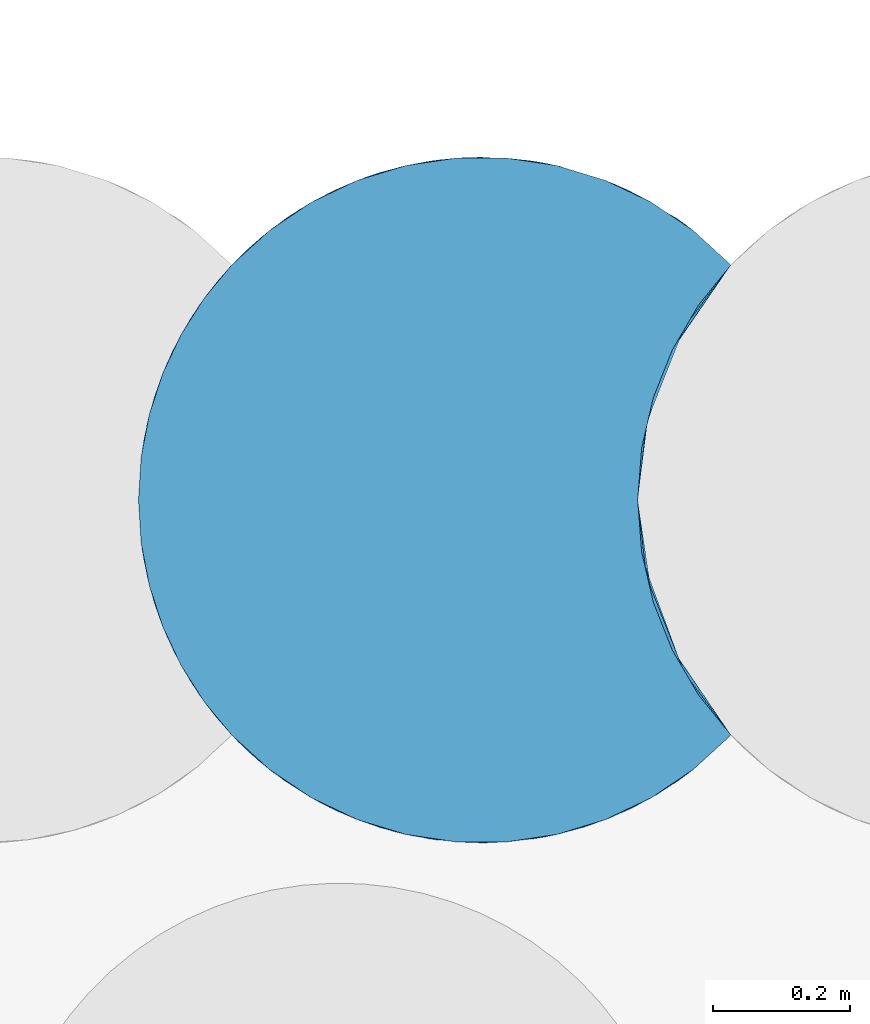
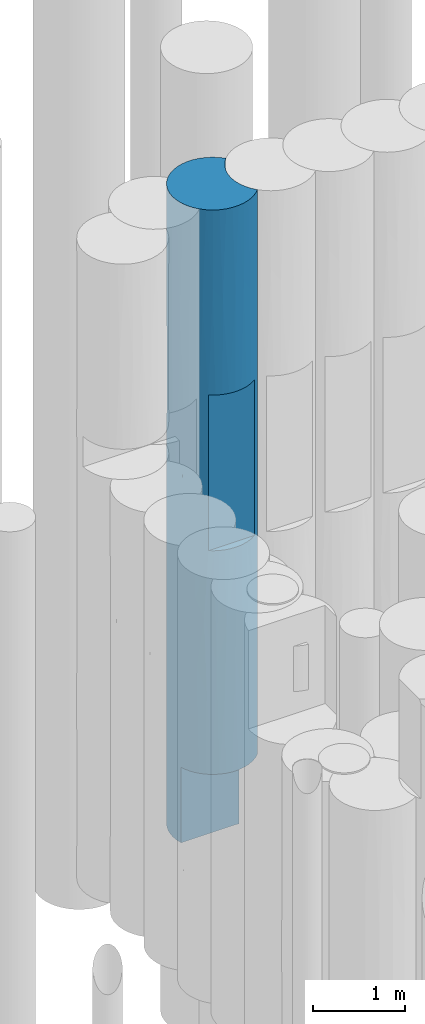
# One storey, part 61 of 104: 1 pile.
"""IFC2X3 building model written with IfcOpenShell, lengths in millimetres."""

from ifc_helpers import new_model, entity, si_unit, converted_unit, derived_unit, direction, frame, origin, place, context, subcontext, project, spatial, faceted_brep, source, transform, mapped, material, element, save


model = new_model("IFC2X3")

# Units and contexts
model_context = context("Model", 3, precision=0.01, world=origin(), true_north=direction((6.12303176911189e-17, 1.0)))
body_context = subcontext(model_context, "Body", "Model", "MODEL_VIEW")
ifc_project = project(units=[si_unit("LENGTHUNIT", "METRE", prefix="MILLI"), si_unit("AREAUNIT", "SQUARE_METRE", prefix="MILLI"), si_unit("VOLUMEUNIT", "CUBIC_METRE"), converted_unit("PLANEANGLEUNIT", "DEGREE", entity("IfcRatioMeasure", 0.0174532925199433), si_unit("PLANEANGLEUNIT", "RADIAN"), dimensions=[0, 0, 0, 0, 0, 0, 0]), si_unit("MASSUNIT", "GRAM", prefix="KILO"), derived_unit("MASSDENSITYUNIT", [(si_unit("MASSUNIT", "GRAM", prefix="KILO"), 1), (si_unit("LENGTHUNIT", "METRE"), -3)]), derived_unit("MOMENTOFINERTIAUNIT", [(si_unit("LENGTHUNIT", "METRE"), 4)]), si_unit("TIMEUNIT", "SECOND"), si_unit("FREQUENCYUNIT", "HERTZ"), si_unit("THERMODYNAMICTEMPERATUREUNIT", "DEGREE_CELSIUS"), derived_unit("THERMALTRANSMITTANCEUNIT", [(si_unit("MASSUNIT", "GRAM", prefix="KILO"), 1), (si_unit("THERMODYNAMICTEMPERATUREUNIT", "KELVIN"), -1), (si_unit("TIMEUNIT", "SECOND"), -3)]), derived_unit("VOLUMETRICFLOWRATEUNIT", [(si_unit("LENGTHUNIT", "METRE"), 3), (si_unit("TIMEUNIT", "SECOND"), -1)]), si_unit("ELECTRICCURRENTUNIT", "AMPERE"), si_unit("ELECTRICVOLTAGEUNIT", "VOLT"), si_unit("POWERUNIT", "WATT"), si_unit("FORCEUNIT", "NEWTON", prefix="KILO"), si_unit("ILLUMINANCEUNIT", "LUX"), si_unit("LUMINOUSFLUXUNIT", "LUMEN"), si_unit("LUMINOUSINTENSITYUNIT", "CANDELA"), derived_unit("USERDEFINED", [(si_unit("MASSUNIT", "GRAM", prefix="KILO"), -1), (si_unit("LENGTHUNIT", "METRE"), -2), (si_unit("TIMEUNIT", "SECOND"), 3), (si_unit("LUMINOUSFLUXUNIT", "LUMEN"), 1)]), derived_unit("LINEARVELOCITYUNIT", [(si_unit("LENGTHUNIT", "METRE"), 1), (si_unit("TIMEUNIT", "SECOND"), -1)]), si_unit("PRESSUREUNIT", "PASCAL"), derived_unit("USERDEFINED", [(si_unit("LENGTHUNIT", "METRE"), -2), (si_unit("MASSUNIT", "GRAM", prefix="KILO"), 1), (si_unit("TIMEUNIT", "SECOND"), -2)]), derived_unit("LINEARFORCEUNIT", [(si_unit("MASSUNIT", "GRAM", prefix="KILO"), 1), (si_unit("LENGTHUNIT", "METRE"), 1), (si_unit("TIMEUNIT", "SECOND"), -2), (si_unit("LENGTHUNIT", "METRE"), -1)]), derived_unit("PLANARFORCEUNIT", [(si_unit("MASSUNIT", "GRAM", prefix="KILO"), 1), (si_unit("LENGTHUNIT", "METRE"), 1), (si_unit("TIMEUNIT", "SECOND"), -2), (si_unit("LENGTHUNIT", "METRE"), -2)])], contexts=[model_context])

# Site, building, storey
site_placement = place(None, origin())
site = spatial("IfcSite", under=ifc_project, at=site_placement, Name="Theater aan de Parade", CompositionType="ELEMENT")
building_placement = place(site_placement, origin())
building = spatial("IfcBuilding", under=site, at=building_placement, Name="Theater aan de Parade", CompositionType="ELEMENT")
storey_placement = place(building_placement, frame((0.0, 0.0, -5520.0)))
storey = spatial("IfcBuildingStorey", under=building, at=storey_placement, Name="-2 kelder", CompositionType="ELEMENT", Elevation=-5520.0)

# Pile
ifc_material = material(Name="00_PBT_MAT_grout")
shared_shape = source(origin(), body_context, "Body", "Brep", [
    faceted_brep([(464.560582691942, 1000.22181762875, 0.0), (538.616668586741, 1000.22280478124, 0.0), (611.860911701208, 989.28522369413, 0.0), (682.68673439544, 967.648790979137, 0.0), (749.540520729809, 935.787802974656, 0.0), (810.955686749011, 894.400737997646, 0.0), (865.595272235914, 844.38383680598, 0.0), (818.150067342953, 785.695330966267, 0.0), (780.078223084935, 720.53458465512, 0.0), (752.247075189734, 650.386060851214, 0.0), (735.29066042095, 576.847851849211, 0.0), (729.595272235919, 501.595272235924, 0.0), (734.989545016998, 428.347920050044, 0.0), (751.055970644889, 356.681032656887, 0.0), (23.0559706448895, 356.681032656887, 0.0), (6.99002046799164, 428.344709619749, 0.0), (1.5952722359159, 501.595272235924, 0.0), (5.55623942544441, 564.406719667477, 0.0), (17.3678310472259, 626.189755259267, 0.0), (36.8430214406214, 686.000655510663, 0.0), (63.6725852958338, 742.891190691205, 0.0), (97.4346759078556, 795.966147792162, 0.0), (137.5957946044, 844.383899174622, 0.0), (192.227350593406, 894.394825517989, 0.0), (253.640398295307, 935.782306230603, 0.0), (320.492432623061, 967.644369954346, 0.0), (391.316996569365, 989.282366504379, 0.0), (865.595272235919, 844.38383680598, 1561.53780933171), (789.401321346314, 910.456713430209, 1491.00548248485), (799.657477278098, 903.041310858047, 2504.8821061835), (26.1639417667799, 656.401764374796, 1423.71039154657), (50.5548382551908, 717.378790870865, 815.522482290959), (716.704326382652, 952.957759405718, 974.743749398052), (575.441567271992, 996.111929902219, 1365.35911550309), (789.401320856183, 910.456713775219, 6978.99451100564), (810.955686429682, 894.400738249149, 8470.0), (865.595272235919, 844.38383680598, 6908.46219066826), (790.879670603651, 909.412065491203, 5813.0119179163), (865.595272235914, 844.38383680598, 5571.73180767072), (865.595272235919, 844.38383680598, 5346.92438133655), (538.616668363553, 1000.22280479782, 8470.0), (611.860911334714, 989.285223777, 8470.0), (575.441567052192, 996.111929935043, 7150.26699538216), (36.7297114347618, 685.714826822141, 2307.62641859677), (64.0996250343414, 743.664598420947, 1628.37591838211), (222.16655921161, 916.227150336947, 956.748364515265), (355.503556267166, 979.776420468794, 1427.16858692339), (501.588606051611, 1001.59527219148, 2596.73325583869), (463.496981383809, 1000.14167953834, 1072.24580175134), (865.595272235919, 844.38383680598, 8470.0), (222.166558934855, 916.227150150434, 1972.30012717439), (217.544033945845, 913.074183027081, 3221.63866937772), (333.161300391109, 972.371224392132, 2861.22474137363), (286.475705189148, 952.952749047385, 7480.63704182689), (192.227350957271, 894.394825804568, 8470.0), (253.640398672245, 935.78230644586, 8470.0), (100.736484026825, 800.446793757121, 6793.03274327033), (163.989554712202, 870.407391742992, 7127.47212773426), (196.918801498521, 898.044825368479, 6218.94986965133), (865.595272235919, 844.38383680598, 4235.0), (785.426204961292, 913.226176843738, 4790.96227754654), (79.757522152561, 770.022008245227, 7621.93766369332), (63.6725852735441, 742.89119065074, 8470.0), (97.4346759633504, 795.966147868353, 8470.0), (692.579720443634, 963.682861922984, 4235.0), (794.511313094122, 906.811502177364, 3679.03770634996), (116.757578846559, 820.812987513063, 1364.08942331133), (716.704325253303, 952.957759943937, 6462.73277506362), (716.704325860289, 952.957759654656, 7495.25624707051), (716.70432577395, 952.957759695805, 2007.26721704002), (36.8430215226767, 686.000655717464, 8470.0), (464.560582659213, 1000.22181762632, 8470.0), (682.686733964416, 967.648791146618, 8470.0), (749.540520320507, 935.787803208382, 8470.0), (1.59527223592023, 501.595272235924, 1058.74569867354), (1.59527223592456, 501.595272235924, 1561.53750746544), (286.475704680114, 952.952748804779, 4235.0), (286.475704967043, 952.952748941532, 6434.30301971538), (236.846141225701, 925.750783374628, 5334.65151001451), (13.5254225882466, 610.167008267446, 7372.75274235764), (17.3678311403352, 626.189755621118, 8470.0), (150.377453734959, 857.468907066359, 2562.8963121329), (79.7181549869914, 769.960131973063, 2632.86902156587), (49.3623188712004, 714.868233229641, 6938.44019104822), (712.525517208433, 954.925650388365, 3129.72297922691), (501.588606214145, 1001.59527219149, 5873.26673738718), (569.755285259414, 996.927698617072, 4755.12996065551), (476.322275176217, 1000.95613936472, 5007.14730889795), (391.316996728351, 989.28236654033, 8470.0), (427.735977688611, 996.109988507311, 7104.64110728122), (9.23358182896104, 588.658271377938, 2342.30656064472), (116.757578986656, 820.812987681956, 5893.90174013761), (33.0262183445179, 676.074616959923, 5347.10350774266), (137.605579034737, 844.3947810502, 8470.0), (438.38163008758, 997.583211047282, 3963.78240309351), (320.492432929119, 967.64437007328, 8470.0), (43.0784257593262, 701.000140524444, 4473.88274990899), (11.2142039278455, 599.198591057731, 4667.65803343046), (1.59527223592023, 501.595272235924, 8470.0), (5.55623942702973, 564.406719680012, 8470.0), (9.51542927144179, 590.237407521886, 5495.65544289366), (116.18581531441, 820.122430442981, 3373.18426703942), (182.11813440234, 886.217630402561, 4288.45203817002), (591.824887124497, 993.386504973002, 3489.10403538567), (18.4305593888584, 630.249305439, 6406.00282362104), (1.59527223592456, 501.595272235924, 2117.50286755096), (1.59527223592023, 501.595272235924, 3123.07501493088), (616.099631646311, 988.30745790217, 2440.53317146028), (386.192771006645, 988.095285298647, 6175.6487371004), (381.519799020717, 986.963051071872, 5169.51578005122), (613.759023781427, 988.852178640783, 6106.01087867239), (692.700363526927, 963.6329807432, 5361.94747271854), (75.4806634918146, 763.179561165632, 5112.43896971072), (135.725798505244, 842.387772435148, 5005.62909266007), (62.9697281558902, 741.611171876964, 3455.71179201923), (97.3058699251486, 795.789220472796, 4263.74923889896), (26.3526093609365, 656.979992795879, 3676.29325435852), (1.59527223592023, 501.595272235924, 3176.26003642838), (1.59527223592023, 501.595272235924, 4234.99353122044), (865.595272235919, 844.38383680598, 3123.07561866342), (865.595272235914, 844.38383680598, 2898.26819232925), (1.59527223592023, 501.595272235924, 5346.92498506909), (1.59527223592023, 501.595272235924, 5571.74329494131), (1.59527223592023, 501.595272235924, 6908.46249253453), (9.64634471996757, 412.229435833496, 1740.22151703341), (148.072114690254, 148.011651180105, 6362.25477872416), (142.564343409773, 153.605628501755, 5505.0), (213.720794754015, 92.7820077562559, 6020.0), (213.720794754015, 92.7820077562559, 4990.0), (23.0559706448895, 356.681032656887, 1000.0), (118.449639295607, 180.348600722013, 2386.24333985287), (32.2105587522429, 329.322259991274, 2204.6556501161), (68.8716500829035, 251.09523864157, 1000.0), (42.9278390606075, 302.537025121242, 1000.0), (8.81770549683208, 416.917827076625, 2646.87500001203), (789.469749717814, 92.7820077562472, 3960.0), (865.595272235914, 158.806707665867, 2867.49999999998), (865.59527223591, 158.806707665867, 3648.28895539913), (865.595272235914, 158.806707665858, 3801.24999999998), (865.595272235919, 158.806707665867, 4735.0), (865.595272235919, 158.806707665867, 5668.74999999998), (865.595272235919, 158.806707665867, 5821.74150431), (865.595272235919, 158.806707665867, 6602.49999999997), (789.469749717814, 92.7820077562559, 6020.0), (789.469749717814, 92.7820077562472, 4990.0), (100.567273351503, 202.970852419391, 1000.0), (137.606416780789, 158.794873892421, 1000.0), (758.203263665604, 72.4655264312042, 3138.32620441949), (791.017305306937, 93.8761449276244, 2324.13442626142), (199.22440674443, 103.384449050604, 2071.40682007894), (253.641127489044, 67.4078218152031, 1000.0), (291.775042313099, 47.7500661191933, 2478.99616583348), (163.989554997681, 132.783152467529, 7198.38299068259), (79.7181554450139, 233.230411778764, 6604.44114999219), (105.37576096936, 196.619701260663, 4545.53706327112), (29.9319094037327, 335.662538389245, 4903.36557309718), (55.1581908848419, 276.44214124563, 3318.48656657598), (374.039213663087, 18.1395328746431, 1949.21547978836), (320.49275863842, 35.5460478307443, 1000.0), (391.316418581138, 13.9083086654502, 1000.0), (319.422437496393, 35.9633808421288, 3960.0), (264.885773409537, 61.1765928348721, 3960.0), (394.569344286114, 13.1841229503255, 2892.64634077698), (464.558867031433, 2.96885427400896, 1000.0), (501.586364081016, 1.59527231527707, 2461.41791459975), (176.91577256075, 121.354266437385, 3045.91888736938), (213.720794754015, 92.7820077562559, 3960.0), (109.582946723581, 191.23042782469, 3307.97049548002), (26.1639420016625, 346.788779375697, 7201.0302868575), (5.55623942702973, 438.783824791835, 8470.0), (749.538137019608, 67.4013802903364, 1000.0), (810.955054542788, 108.789308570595, 1000.0), (79.7181554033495, 233.230411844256, 7559.63491729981), (865.595272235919, 158.806707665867, 7689.2311468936), (865.595272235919, 158.806707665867, 8470.0), (810.955686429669, 108.78980622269, 8470.0), (17.3678311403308, 377.000788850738, 8470.0), (36.8430215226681, 317.1898887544, 8470.0), (31.168025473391, 332.189825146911, 6056.32460068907), (137.605579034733, 158.795763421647, 8470.0), (253.008900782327, 67.7694823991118, 7429.16293872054), (279.558542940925, 53.6000815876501, 6020.0), (865.595272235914, 158.806707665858, 1000.0), (865.59527223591, 158.806707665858, 1780.76885310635), (192.227350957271, 108.795718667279, 8470.0), (97.4346759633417, 207.224396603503, 8470.0), (63.6725852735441, 260.299353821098, 8470.0), (355.503557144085, 23.4141237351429, 7268.21560542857), (14.4159189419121, 389.095149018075, 3705.62500005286), (391.316996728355, 13.9081779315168, 8470.0), (320.492432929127, 35.5461743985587, 8470.0), (350.609564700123, 24.9367822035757, 6020.0), (656.576636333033, 26.2209178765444, 3960.0), (584.201119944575, 8.46620807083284, 3960.0), (597.36210783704, 10.8522506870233, 2954.11905203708), (75.6889135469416, 239.672051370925, 5520.0471003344), (538.613909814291, 2.96753486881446, 1000.0), (509.991180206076, 1.66576847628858, 3960.0), (435.595269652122, 5.97041444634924, 3960.0), (593.908922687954, 10.1909682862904, 1970.06823868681), (682.683430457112, 35.5404697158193, 1000.0), (691.571405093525, 39.0922247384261, 2498.53119644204), (803.386835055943, 102.945234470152, 7145.86557351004), (723.632001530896, 53.6000815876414, 6020.0), (376.599926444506, 17.4711522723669, 3960.0), (253.64039867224, 67.4082380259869, 8470.0), (749.540520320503, 67.4027412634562, 8470.0), (716.704326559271, 50.2327851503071, 7267.64689878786), (682.686733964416, 35.5417533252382, 8470.0), (611.860911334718, 13.9053206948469, 8470.0), (611.870435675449, 13.9074742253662, 7434.83465826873), (865.59527223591, 158.806707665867, 2561.54745108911), (192.227830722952, 108.795340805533, 1000.0), (725.509675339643, 54.5356116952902, 3960.0), (611.857533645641, 13.9045570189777, 1000.0), (425.205629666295, 7.4651046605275, 6020.0), (501.588607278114, 1.5952722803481, 7268.66818084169), (464.560582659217, 2.96872684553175, 8470.0), (577.984914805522, 7.4651046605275, 6020.0), (501.595272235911, 1.59527223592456, 6020.0), (652.580979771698, 24.9367822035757, 6020.0), (538.616668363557, 2.96773967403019, 8470.0), (865.595272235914, 158.806707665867, 6908.48300862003), (818.150067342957, 217.495213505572, 8470.0), (780.078223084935, 282.655959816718, 8470.0), (752.247075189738, 352.804483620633, 8470.0), (735.29066042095, 426.342692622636, 8470.0), (729.595272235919, 501.595272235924, 8470.0), (735.29066042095, 576.847851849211, 8470.0), (752.247075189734, 650.386060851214, 8470.0), (780.078223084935, 720.53458465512, 8470.0), (818.150067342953, 785.695330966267, 8470.0), (751.055970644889, 356.681032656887, 1000.0), (778.900945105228, 285.089790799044, 1000.0), (817.383474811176, 218.608639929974, 1000.0), (742.379444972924, 613.937328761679, 959.062888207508), (738.151011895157, 593.695972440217, 6638.44327873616), (742.379444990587, 613.937328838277, 7510.93711044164), (729.595272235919, 501.595272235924, 6908.4597613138), (808.681716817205, 771.468907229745, 6638.44327726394), (781.985001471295, 724.40695394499, 5169.28730842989), (797.883005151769, 753.834282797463, 959.062888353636), (764.837270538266, 685.986160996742, 1706.36651512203), (797.883005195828, 753.834282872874, 7510.93711014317), (729.595272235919, 501.595272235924, 1561.54023868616), (729.595272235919, 501.595272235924, 1058.75298998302), (808.681716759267, 771.468907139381, 1831.55672113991), (778.799150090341, 717.888721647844, 2630.65322090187), (766.296890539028, 689.62348691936, 3566.63442778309), (739.967026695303, 602.90756748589, 2500.19182196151), (729.595272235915, 501.595272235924, 3123.08047737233), (729.595272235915, 501.595272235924, 2117.50597996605), (764.837270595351, 685.986161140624, 6763.63348211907), (798.309538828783, 754.56289103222, 4260.62631723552), (810.907944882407, 774.909966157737, 3324.34692372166), (745.175048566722, 625.438103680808, 5612.66192558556), (744.930852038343, 624.47895624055, 4544.29323307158), (738.502483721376, 595.552033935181, 3413.30504808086), (729.595272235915, 501.595272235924, 4235.01242423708), (729.595272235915, 501.595272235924, 5571.72573206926), (729.595272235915, 501.595272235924, 5346.93194686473), (729.595272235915, 501.595272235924, 3176.24701001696), (737.652631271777, 412.194835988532, 1740.61215192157), (796.863622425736, 251.109106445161, 1977.49082641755), (808.103941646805, 232.6249053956, 2870.31406883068), (797.883005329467, 249.356261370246, 7510.9371107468), (762.458274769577, 323.317327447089, 4903.36557316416), (741.179889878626, 394.588663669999, 5988.20523574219), (778.685121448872, 285.53964070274, 5822.23176538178), (742.379445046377, 389.253215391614, 7510.93711054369), (764.837270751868, 317.204382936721, 6763.63348277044), (808.681717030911, 231.721636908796, 6638.44327929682), (736.645152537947, 417.92819693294, 2646.87500001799), (763.601591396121, 320.349887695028, 2739.79071288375), (736.819640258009, 416.906568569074, 5098.3280587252), (739.996017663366, 400.142968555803, 3705.62500000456), (776.673795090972, 289.788436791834, 3825.90126919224), (807.285378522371, 233.91196369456, 5061.9220930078)], [[[0, 1, 2, 3, 4, 5, 6, 7, 8, 9, 10, 11, 12, 13, 14, 15, 16, 17, 18, 19, 20, 21, 22, 23, 24, 25, 26]], [[27, 28, 29]], [[18, 30, 31]], [[4, 3, 32]], [[32, 2, 33]], [[34, 35, 36]], [[37, 36, 38, 39]], [[40, 41, 42]], [[30, 43, 44]], [[45, 46, 25]], [[47, 33, 48]], [[6, 5, 27]], [[35, 49, 36]], [[1, 48, 33]], [[26, 46, 48]], [[50, 51, 52]], [[53, 54, 55]], [[56, 57, 58]], [[39, 59, 60]], [[28, 5, 32]], [[61, 62, 63]], [[64, 60, 65]], [[25, 46, 26]], [[45, 22, 66]], [[24, 23, 45]], [[67, 68, 34]], [[28, 32, 69]], [[25, 24, 45]], [[70, 62, 61]], [[71, 40, 42]], [[68, 72, 73]], [[0, 48, 1]], [[42, 41, 68]], [[17, 16, 74, 75]], [[52, 51, 76]], [[58, 77, 78]], [[31, 21, 20]], [[70, 79, 80]], [[1, 33, 2]], [[66, 50, 45]], [[31, 19, 18]], [[81, 66, 82]], [[79, 70, 83]], [[65, 29, 84]], [[17, 75, 30]], [[85, 86, 87]], [[53, 88, 89]], [[30, 75, 90]], [[30, 18, 17]], [[42, 85, 89]], [[83, 91, 92]], [[57, 61, 93]], [[4, 32, 5]], [[89, 88, 71]], [[52, 94, 47]], [[95, 53, 55]], [[96, 97, 92]], [[42, 89, 71]], [[98, 99, 79]], [[54, 53, 57]], [[93, 54, 57]], [[92, 97, 100]], [[51, 101, 102]], [[103, 64, 84]], [[57, 56, 61]], [[44, 31, 30]], [[100, 104, 92]], [[79, 99, 80]], [[50, 52, 46]], [[66, 22, 21]], [[90, 75, 105, 106]], [[76, 102, 78]], [[107, 33, 47]], [[33, 69, 32]], [[42, 68, 67]], [[108, 85, 109]], [[89, 77, 53]], [[68, 41, 72]], [[110, 42, 67]], [[53, 95, 88]], [[57, 53, 77]], [[32, 3, 2]], [[45, 23, 22]], [[46, 45, 50]], [[68, 73, 35]], [[107, 84, 69]], [[111, 67, 37]], [[112, 91, 113]], [[96, 92, 112]], [[51, 102, 76]], [[101, 114, 115]], [[94, 52, 76]], [[47, 46, 52]], [[109, 94, 76]], [[103, 86, 64]], [[90, 43, 30]], [[116, 106, 117, 118]], [[29, 28, 69]], [[5, 28, 27]], [[84, 29, 69]], [[29, 119, 120, 27]], [[103, 107, 47]], [[65, 60, 59]], [[47, 94, 103]], [[109, 87, 94]], [[94, 86, 103]], [[111, 110, 67]], [[111, 60, 64]], [[119, 65, 59]], [[37, 39, 60]], [[64, 86, 111]], [[110, 86, 85]], [[86, 110, 111]], [[42, 110, 85]], [[29, 65, 119]], [[65, 84, 64]], [[111, 37, 60]], [[37, 67, 34]], [[35, 34, 68]], [[37, 34, 36]], [[78, 109, 76]], [[89, 108, 77]], [[84, 107, 103]], [[33, 107, 69]], [[81, 51, 50]], [[81, 101, 51]], [[115, 113, 102]], [[57, 77, 58]], [[78, 102, 113]], [[109, 78, 77]], [[66, 81, 50]], [[101, 81, 82]], [[114, 101, 82]], [[102, 101, 115]], [[43, 114, 82]], [[114, 116, 96]], [[112, 113, 115]], [[113, 91, 58]], [[115, 114, 96]], [[91, 112, 92]], [[115, 96, 112]], [[118, 97, 116]], [[100, 97, 121]], [[116, 97, 96]], [[121, 97, 118]], [[100, 121, 122, 123]], [[123, 79, 104]], [[113, 58, 78]], [[56, 58, 91]], [[104, 79, 83]], [[79, 123, 98]], [[92, 104, 83]], [[123, 104, 100]], [[106, 116, 90]], [[116, 114, 43]], [[116, 43, 90]], [[44, 82, 66]], [[82, 44, 43]], [[66, 21, 31]], [[66, 31, 44]], [[19, 31, 20]], [[91, 83, 56]], [[61, 56, 83]], [[61, 83, 70]], [[61, 63, 93]], [[26, 48, 0]], [[47, 48, 46]], [[94, 87, 86]], [[109, 85, 87]], [[85, 108, 89]], [[109, 77, 108]], [[124, 105, 75, 74]], [[125, 126, 127]], [[126, 128, 127]], [[129, 15, 14]], [[130, 131, 132]], [[129, 133, 131]], [[134, 117, 106, 105]], [[132, 131, 133]], [[135, 136, 137, 138, 139, 140, 141, 142, 143, 144]], [[145, 146, 130]], [[136, 147, 148]], [[129, 124, 74]], [[149, 150, 151]], [[152, 153, 125]], [[154, 155, 156]], [[157, 158, 159]], [[130, 156, 131]], [[149, 130, 146]], [[150, 158, 151]], [[151, 160, 161]], [[160, 151, 162]], [[155, 122, 121, 118]], [[163, 164, 157]], [[165, 161, 166]], [[149, 165, 130]], [[165, 167, 130]], [[123, 168, 169]], [[170, 171, 148]], [[152, 172, 153]], [[173, 174, 175]], [[176, 168, 177]], [[168, 178, 153]], [[172, 177, 168]], [[172, 152, 179]], [[123, 122, 178]], [[180, 127, 181]], [[171, 182, 183]], [[130, 132, 145]], [[184, 179, 152]], [[185, 186, 172]], [[180, 181, 187]], [[188, 117, 134]], [[180, 184, 152]], [[189, 190, 187]], [[187, 190, 180]], [[187, 181, 191]], [[155, 188, 156]], [[188, 118, 117]], [[168, 153, 172]], [[169, 98, 123]], [[188, 155, 118]], [[192, 193, 194]], [[154, 126, 195]], [[164, 163, 196]], [[169, 168, 176]], [[162, 197, 198]], [[199, 200, 201]], [[127, 152, 125]], [[164, 162, 157]], [[202, 203, 143]], [[204, 162, 198]], [[197, 164, 194]], [[190, 205, 180]], [[197, 194, 193]], [[167, 156, 130]], [[206, 207, 202]], [[208, 209, 210]], [[172, 186, 177]], [[148, 183, 211, 136]], [[201, 147, 192]], [[194, 199, 201]], [[146, 212, 149]], [[171, 183, 148]], [[213, 147, 135]], [[196, 214, 199]], [[175, 206, 202]], [[215, 187, 191]], [[172, 179, 185]], [[153, 178, 195]], [[216, 217, 189]], [[218, 216, 219]], [[220, 207, 210]], [[187, 215, 216]], [[170, 148, 201]], [[216, 189, 187]], [[201, 148, 147]], [[217, 216, 221]], [[221, 216, 210]], [[192, 147, 213]], [[220, 210, 218]], [[216, 215, 219]], [[170, 201, 200]], [[131, 134, 124]], [[134, 156, 188]], [[203, 207, 220]], [[195, 126, 125]], [[208, 207, 206]], [[195, 155, 154]], [[202, 143, 142]], [[202, 142, 222, 173]], [[178, 168, 123]], [[221, 210, 209]], [[122, 155, 178]], [[154, 166, 128]], [[155, 195, 178]], [[204, 160, 162]], [[128, 126, 154]], [[147, 136, 135]], [[124, 134, 105]], [[134, 131, 156]], [[15, 129, 74]], [[131, 124, 129]], [[175, 202, 173]], [[16, 15, 74]], [[202, 207, 203]], [[195, 125, 153]], [[150, 149, 212]], [[151, 161, 165]], [[151, 165, 149]], [[167, 166, 154]], [[166, 167, 165]], [[154, 156, 167]], [[157, 162, 151]], [[162, 164, 197]], [[158, 157, 151]], [[157, 159, 163]], [[199, 194, 164]], [[192, 194, 201]], [[196, 199, 164]], [[199, 214, 200]], [[184, 180, 205]], [[180, 152, 127]], [[218, 210, 216]], [[208, 210, 207]], [[73, 72, 41, 40, 71, 88, 95, 55, 54, 93, 63, 62, 70, 80, 99, 98, 169, 176, 177, 186, 185, 179, 184, 205, 190, 189, 217, 221, 209, 208, 206, 175, 174, 223, 224, 225, 226, 227, 228, 229, 230, 231, 49, 35]], [[219, 215, 191, 181, 127, 143, 203, 220, 218]], [[166, 135, 144, 143, 127, 128]], [[192, 213, 135, 166, 161, 160, 204, 198, 197, 193]], [[133, 129, 232, 233, 234, 182, 171, 170, 200, 214, 196, 163, 159, 158, 150, 212, 146, 145, 132]], [[129, 14, 13, 232]], [[10, 9, 235]], [[236, 237, 238]], [[38, 239, 240]], [[235, 241, 242]], [[6, 241, 7]], [[235, 9, 241]], [[243, 36, 49]], [[235, 244, 245, 11]], [[238, 237, 227]], [[228, 227, 237]], [[242, 241, 246]], [[247, 248, 249]], [[249, 250, 251, 244]], [[231, 230, 243]], [[237, 252, 243]], [[247, 246, 120]], [[253, 248, 254]], [[237, 243, 230, 229]], [[229, 228, 237]], [[8, 7, 241]], [[255, 256, 240]], [[241, 9, 8]], [[27, 241, 6]], [[10, 235, 11]], [[244, 235, 249]], [[252, 237, 236]], [[231, 243, 49]], [[36, 243, 239]], [[120, 254, 247]], [[246, 241, 27]], [[257, 249, 248]], [[256, 257, 248]], [[243, 252, 239]], [[242, 246, 247]], [[246, 27, 120]], [[242, 247, 249]], [[254, 248, 247]], [[235, 242, 249]], [[257, 250, 249]], [[253, 256, 248]], [[254, 120, 119, 59]], [[256, 258, 257]], [[253, 254, 59]], [[240, 252, 255]], [[236, 238, 259, 260]], [[253, 59, 39, 38]], [[239, 252, 240]], [[38, 36, 239]], [[38, 240, 253]], [[253, 240, 256]], [[236, 260, 255]], [[256, 255, 260]], [[236, 255, 252]], [[257, 258, 261, 250]], [[256, 260, 258]], [[262, 245, 244, 251]], [[211, 263, 264]], [[234, 263, 182]], [[13, 12, 232]], [[223, 174, 265]], [[262, 232, 245]], [[266, 267, 268]], [[269, 238, 227]], [[226, 225, 269]], [[270, 265, 271]], [[272, 273, 262]], [[234, 233, 263]], [[262, 273, 263]], [[224, 265, 269, 225]], [[263, 211, 183, 182]], [[265, 270, 269]], [[272, 251, 250, 261]], [[232, 263, 233]], [[264, 263, 273]], [[267, 266, 274]], [[258, 275, 261]], [[271, 265, 222]], [[224, 223, 265]], [[265, 174, 173, 222]], [[226, 269, 227]], [[238, 269, 267]], [[267, 259, 238]], [[273, 276, 264]], [[270, 268, 267]], [[276, 139, 138, 137]], [[276, 277, 139]], [[276, 137, 264]], [[276, 273, 275]], [[264, 137, 136, 211]], [[275, 274, 266]], [[272, 261, 275]], [[276, 275, 266]], [[251, 272, 262]], [[273, 272, 275]], [[245, 232, 12]], [[263, 232, 262]], [[270, 271, 268]], [[245, 12, 11]], [[268, 271, 141]], [[268, 141, 277]], [[271, 222, 142, 141]], [[277, 266, 268]], [[269, 270, 267]], [[274, 259, 267]], [[266, 277, 276]], [[277, 141, 140, 139]], [[274, 258, 260, 259]], [[258, 274, 275]]]),
])
pile_placement = place(storey_placement, frame((35608.2628578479, 43807.2179922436, -3840.0)))
element("IfcPile", 1, at=pile_placement, inside=storey, material=ifc_material, Name="17_PBT_SFO_grondkering_rond:Ø1000 (grondkering)", ObjectType="17_PBT_SFO_grondkering_rond:Ø1000 (grondkering)", PredefinedType="NOTDEFINED", context=body_context, shape_type="MappedRepresentation", body=[
    mapped(shared_shape, transform((0.0, 0.0, 0.0), scale=1.0)),
])

save(model, "model.ifc")
